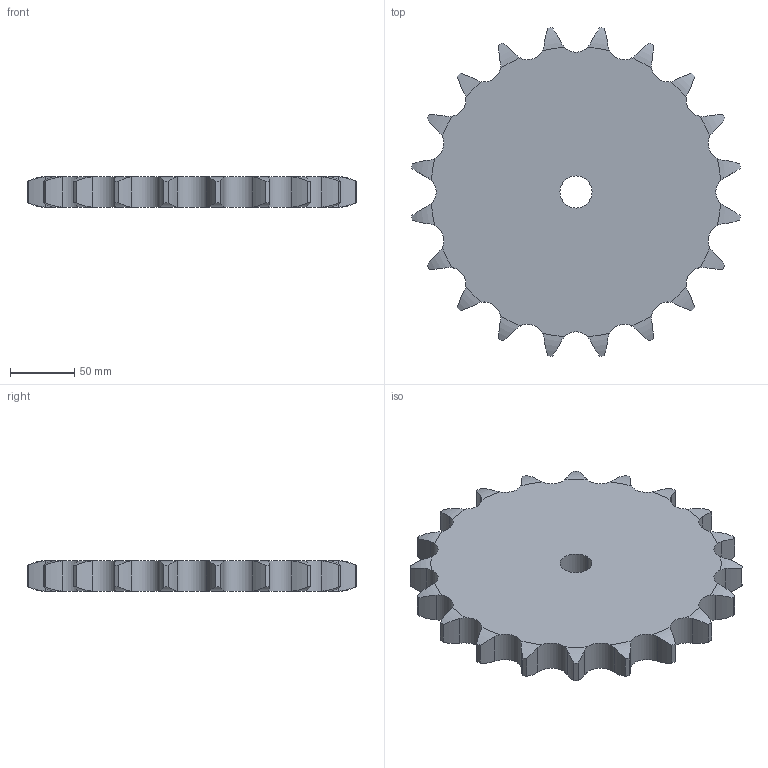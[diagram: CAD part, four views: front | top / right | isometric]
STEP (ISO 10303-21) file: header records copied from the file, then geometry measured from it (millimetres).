
FILE_DESCRIPTION((''),'2;1');
FILE_NAME('500-701-0020_PRT','2021-02-12T',('Brieden'),('Brieden'),'PRO/ENGINEER BY PARAMETRIC TECHNOLOGY CORPORATION, 2010160','PRO/ENGINEER BY PARAMETRIC TECHNOLOGY CORPORATION, 2010160','');
FILE_SCHEMA(('AUTOMOTIVE_DESIGN { 1 0 10303 214 1 1 1 1 }'));
Length unit declared in the file: millimetre
Products named in the file (1): 500-701-0020_PRT
Bounding box: 255.93 x 255.93 x 24.1 mm (x, y, z)
Volume: 1007097.4 mm3; surface area: 112586.6 mm2
Topology: 1 solids, 1 shells, 124 faces, 366 edges, 244 vertices
Faces by surface type: cylinder 82, torus 40, plane 2
Entity records: 6390 total; most frequent: CARTESIAN_POINT 2101, ORIENTED_EDGE 732, DIRECTION 578, PRESENTATION_STYLE_ASSIGNMENT 367, STYLED_ITEM 367, CURVE_STYLE 366, EDGE_CURVE 366, AXIS2_PLACEMENT_3D 248
